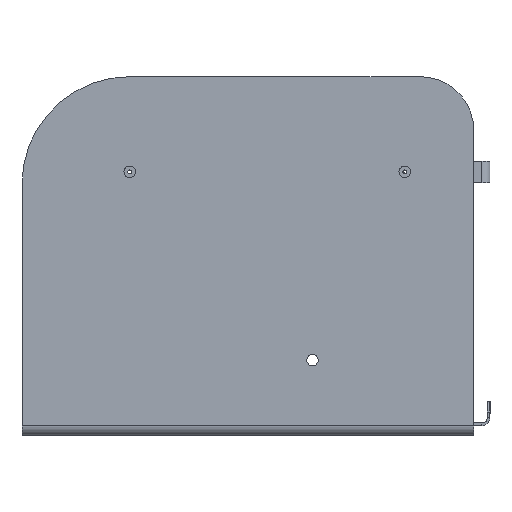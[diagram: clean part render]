
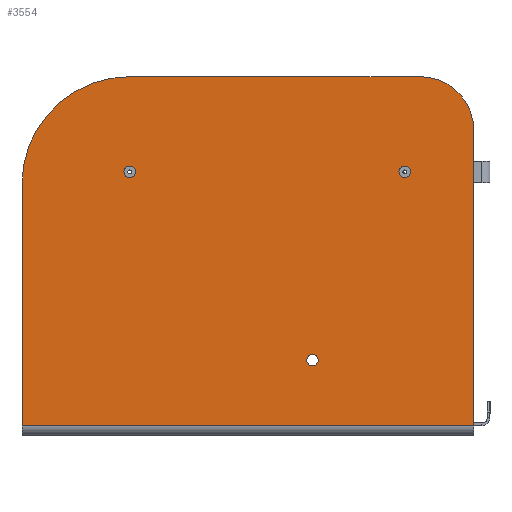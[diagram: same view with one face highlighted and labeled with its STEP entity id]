
A CAD part, left-side view. The second image highlights one B-rep face of the part: STEP entity #3554.
In plain terms, the highlighted planar face has unit normal (-1, 0, 0).
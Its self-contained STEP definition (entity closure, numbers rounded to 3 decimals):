
#35 = VERTEX_POINT ( 'NONE', #2405 ) ;
#147 = VECTOR ( 'NONE', #3575, 1000. ) ;
#151 = VERTEX_POINT ( 'NONE', #3486 ) ;
#196 = DIRECTION ( 'NONE',  ( 1., 0., 0. ) ) ;
#204 = CARTESIAN_POINT ( 'NONE',  ( 67102.156, 0., 666.906 ) ) ;
#282 = EDGE_CURVE ( 'NONE', #2664, #35, #3401, .T. ) ;
#343 = FACE_BOUND ( 'NONE', #3448, .T. ) ;
#375 = VERTEX_POINT ( 'NONE', #3973 ) ;
#415 = AXIS2_PLACEMENT_3D ( 'NONE', #1068, #1042, #1203 ) ;
#496 = AXIS2_PLACEMENT_3D ( 'NONE', #4417, #5484, #827 ) ;
#557 = CARTESIAN_POINT ( 'NONE',  ( 67102.156, 54637.088, 150.656 ) ) ;
#613 = EDGE_CURVE ( 'NONE', #5260, #1859, #3700, .T. ) ;
#640 = CIRCLE ( 'NONE', #4892, 10.75 ) ;
#685 = CIRCLE ( 'NONE', #3682, 10.75 ) ;
#721 = ORIENTED_EDGE ( 'NONE', *, *, #3173, .T. ) ;
#744 = AXIS2_PLACEMENT_3D ( 'NONE', #4917, #769, #2609 ) ;
#755 = ORIENTED_EDGE ( 'NONE', *, *, #3502, .F. ) ;
#769 = DIRECTION ( 'NONE',  ( 1., 0., 0. ) ) ;
#799 = DIRECTION ( 'NONE',  ( 0., 0., -1. ) ) ;
#801 = EDGE_LOOP ( 'NONE', ( #755, #3477, #4743, #2252, #2110, #1718 ) ) ;
#827 = DIRECTION ( 'NONE',  ( 0., 0., -1. ) ) ;
#832 = CARTESIAN_POINT ( 'NONE',  ( 67102.156, 54337.088, 67124.062 ) ) ;
#839 = DIRECTION ( 'NONE',  ( 0., 0., -1. ) ) ;
#866 = CARTESIAN_POINT ( 'NONE',  ( 67102.156, 54637.088, 139.906 ) ) ;
#888 = VERTEX_POINT ( 'NONE', #4952 ) ;
#916 = ORIENTED_EDGE ( 'NONE', *, *, #3174, .T. ) ;
#924 = CARTESIAN_POINT ( 'NONE',  ( 67102.156, 54337.088, 18.1 ) ) ;
#941 = AXIS2_PLACEMENT_3D ( 'NONE', #1764, #1276, #799 ) ;
#998 = CARTESIAN_POINT ( 'NONE',  ( 67102.156, 54437.088, 666.906 ) ) ;
#1040 = AXIS2_PLACEMENT_3D ( 'NONE', #5554, #2799, #4648 ) ;
#1042 = DIRECTION ( 'NONE',  ( 1., 0., 0. ) ) ;
#1057 = EDGE_CURVE ( 'NONE', #151, #888, #2489, .T. ) ;
#1068 = CARTESIAN_POINT ( 'NONE',  ( 67102.156, 54465.588, 489.906 ) ) ;
#1203 = DIRECTION ( 'NONE',  ( 0., 0., -1. ) ) ;
#1237 = ORIENTED_EDGE ( 'NONE', *, *, #5123, .T. ) ;
#1276 = DIRECTION ( 'NONE',  ( 1., 0., 0. ) ) ;
#1542 = DIRECTION ( 'NONE',  ( 1., 0., 0. ) ) ;
#1549 = VECTOR ( 'NONE', #3321, 1000. ) ;
#1677 = FACE_OUTER_BOUND ( 'NONE', #801, .T. ) ;
#1705 = VECTOR ( 'NONE', #1772, 1000. ) ;
#1718 = ORIENTED_EDGE ( 'NONE', *, *, #1836, .F. ) ;
#1742 = ORIENTED_EDGE ( 'NONE', *, *, #613, .T. ) ;
#1764 = CARTESIAN_POINT ( 'NONE',  ( 67102.156, 54465.588, 489.906 ) ) ;
#1772 = DIRECTION ( 'NONE',  ( 0., 1., 0. ) ) ;
#1836 = EDGE_CURVE ( 'NONE', #5611, #151, #5778, .T. ) ;
#1859 = VERTEX_POINT ( 'NONE', #2543 ) ;
#2110 = ORIENTED_EDGE ( 'NONE', *, *, #1057, .F. ) ;
#2139 = AXIS2_PLACEMENT_3D ( 'NONE', #5759, #196, #5309 ) ;
#2160 = CARTESIAN_POINT ( 'NONE',  ( 67102.156, 0., 18.1 ) ) ;
#2252 = ORIENTED_EDGE ( 'NONE', *, *, #2651, .F. ) ;
#2405 = CARTESIAN_POINT ( 'NONE',  ( 67102.156, 54337.088, 566.906 ) ) ;
#2489 = CIRCLE ( 'NONE', #1040, 200. ) ;
#2491 = CARTESIAN_POINT ( 'NONE',  ( 67102.156, 55177.385, 67124.062 ) ) ;
#2543 = CARTESIAN_POINT ( 'NONE',  ( 67102.156, 54465.588, 479.156 ) ) ;
#2609 = DIRECTION ( 'NONE',  ( 0., 0., -1. ) ) ;
#2651 = EDGE_CURVE ( 'NONE', #888, #2664, #5615, .T. ) ;
#2664 = VERTEX_POINT ( 'NONE', #998 ) ;
#2700 = DIRECTION ( 'NONE',  ( 1., 0., 0. ) ) ;
#2799 = DIRECTION ( 'NONE',  ( 1., 0., 0. ) ) ;
#2848 = VERTEX_POINT ( 'NONE', #3107 ) ;
#2879 = DIRECTION ( 'NONE',  ( 0., 0., 1. ) ) ;
#2920 = CARTESIAN_POINT ( 'NONE',  ( 67102.156, 54977.088, 479.156 ) ) ;
#2934 = CARTESIAN_POINT ( 'NONE',  ( 67102.156, 54637.088, 139.906 ) ) ;
#2980 = VERTEX_POINT ( 'NONE', #557 ) ;
#3107 = CARTESIAN_POINT ( 'NONE',  ( 67102.156, 54637.088, 129.156 ) ) ;
#3131 = CARTESIAN_POINT ( 'NONE',  ( 67102.156, 54977.088, 489.906 ) ) ;
#3173 = EDGE_CURVE ( 'NONE', #2980, #2848, #640, .T. ) ;
#3174 = EDGE_CURVE ( 'NONE', #1859, #5260, #3735, .T. ) ;
#3186 = DIRECTION ( 'NONE',  ( 0., 0., -1. ) ) ;
#3321 = DIRECTION ( 'NONE',  ( 0., -1., 0. ) ) ;
#3322 = EDGE_LOOP ( 'NONE', ( #4234, #721 ) ) ;
#3390 = VERTEX_POINT ( 'NONE', #924 ) ;
#3401 = CIRCLE ( 'NONE', #2139, 100. ) ;
#3448 = EDGE_LOOP ( 'NONE', ( #1237, #5022 ) ) ;
#3477 = ORIENTED_EDGE ( 'NONE', *, *, #5445, .F. ) ;
#3486 = CARTESIAN_POINT ( 'NONE',  ( 67102.156, 55177.385, 466.906 ) ) ;
#3496 = VECTOR ( 'NONE', #2879, 1000. ) ;
#3498 = EDGE_CURVE ( 'NONE', #375, #4045, #3827, .T. ) ;
#3502 = EDGE_CURVE ( 'NONE', #3390, #5611, #3975, .T. ) ;
#3514 = LINE ( 'NONE', #832, #147 ) ;
#3553 = FACE_BOUND ( 'NONE', #3322, .T. ) ;
#3554 = ADVANCED_FACE ( 'NONE', ( #1677, #343, #4982, #3553 ), #5849, .F. ) ;
#3575 = DIRECTION ( 'NONE',  ( 0., 0., -1. ) ) ;
#3682 = AXIS2_PLACEMENT_3D ( 'NONE', #2934, #1542, #5749 ) ;
#3700 = CIRCLE ( 'NONE', #415, 10.75 ) ;
#3735 = CIRCLE ( 'NONE', #941, 10.75 ) ;
#3827 = CIRCLE ( 'NONE', #4609, 10.75 ) ;
#3891 = EDGE_LOOP ( 'NONE', ( #916, #1742 ) ) ;
#3973 = CARTESIAN_POINT ( 'NONE',  ( 67102.156, 54977.088, 500.656 ) ) ;
#3975 = LINE ( 'NONE', #2160, #1705 ) ;
#4045 = VERTEX_POINT ( 'NONE', #2920 ) ;
#4234 = ORIENTED_EDGE ( 'NONE', *, *, #4995, .T. ) ;
#4417 = CARTESIAN_POINT ( 'NONE',  ( 67102.156, 54977.088, 489.906 ) ) ;
#4609 = AXIS2_PLACEMENT_3D ( 'NONE', #3131, #5370, #839 ) ;
#4648 = DIRECTION ( 'NONE',  ( 0., 0., -1. ) ) ;
#4665 = CARTESIAN_POINT ( 'NONE',  ( 67102.156, 54465.588, 500.656 ) ) ;
#4743 = ORIENTED_EDGE ( 'NONE', *, *, #282, .F. ) ;
#4838 = CIRCLE ( 'NONE', #496, 10.75 ) ;
#4892 = AXIS2_PLACEMENT_3D ( 'NONE', #866, #2700, #3186 ) ;
#4917 = CARTESIAN_POINT ( 'NONE',  ( 67102.156, 0., 67124.062 ) ) ;
#4952 = CARTESIAN_POINT ( 'NONE',  ( 67102.156, 54977.385, 666.906 ) ) ;
#4982 = FACE_BOUND ( 'NONE', #3891, .T. ) ;
#4995 = EDGE_CURVE ( 'NONE', #2848, #2980, #685, .T. ) ;
#5022 = ORIENTED_EDGE ( 'NONE', *, *, #3498, .T. ) ;
#5123 = EDGE_CURVE ( 'NONE', #4045, #375, #4838, .T. ) ;
#5260 = VERTEX_POINT ( 'NONE', #4665 ) ;
#5309 = DIRECTION ( 'NONE',  ( 0., 0., -1. ) ) ;
#5370 = DIRECTION ( 'NONE',  ( 1., 0., 0. ) ) ;
#5445 = EDGE_CURVE ( 'NONE', #35, #3390, #3514, .T. ) ;
#5454 = CARTESIAN_POINT ( 'NONE',  ( 67102.156, 55177.385, 18.1 ) ) ;
#5484 = DIRECTION ( 'NONE',  ( 1., 0., 0. ) ) ;
#5554 = CARTESIAN_POINT ( 'NONE',  ( 67102.156, 54977.385, 466.906 ) ) ;
#5611 = VERTEX_POINT ( 'NONE', #5454 ) ;
#5615 = LINE ( 'NONE', #204, #1549 ) ;
#5749 = DIRECTION ( 'NONE',  ( 0., 0., -1. ) ) ;
#5759 = CARTESIAN_POINT ( 'NONE',  ( 67102.156, 54437.088, 566.906 ) ) ;
#5778 = LINE ( 'NONE', #2491, #3496 ) ;
#5849 = PLANE ( 'NONE',  #744 ) ;
